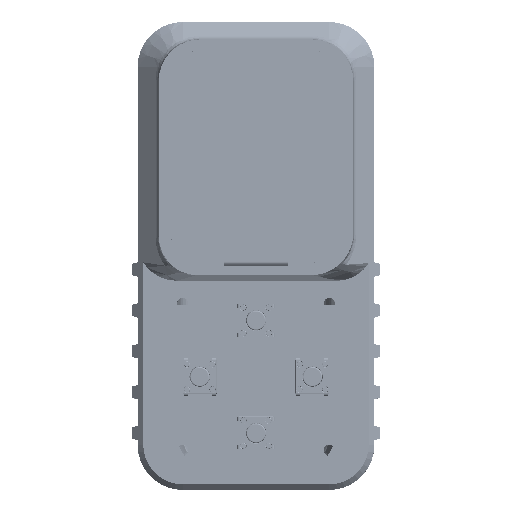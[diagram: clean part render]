
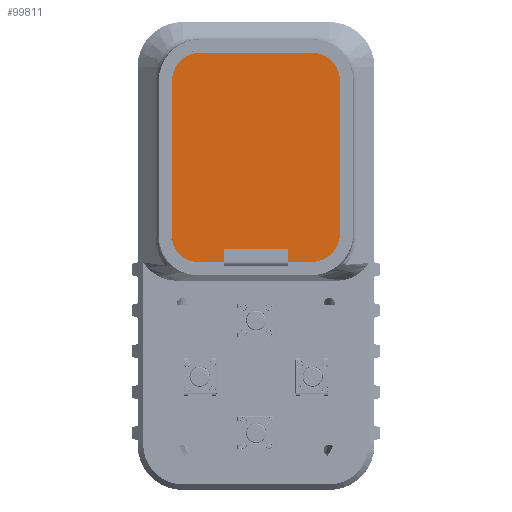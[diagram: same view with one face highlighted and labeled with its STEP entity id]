
A CAD part, top view. The second image highlights one B-rep face of the part: STEP entity #99811.
In plain terms, the highlighted planar face has unit normal (0, 0, 1).
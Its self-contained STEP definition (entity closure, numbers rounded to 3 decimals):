
#5588=PLANE('',#106194);
#9351=FACE_OUTER_BOUND('',#14831,.T.);
#14831=EDGE_LOOP('',(#69521,#69522,#69523,#69524,#69525,#69526,#69527,#69528,
#69529,#69530,#69531,#69532));
#20667=LINE('',#141843,#31817);
#20677=LINE('',#141870,#31827);
#20680=LINE('',#141878,#31830);
#20695=LINE('',#141935,#31845);
#20698=LINE('',#141940,#31848);
#20699=LINE('',#141944,#31849);
#20700=LINE('',#141948,#31850);
#20701=LINE('',#141952,#31851);
#31817=VECTOR('',#114379,10.);
#31827=VECTOR('',#114401,28.388);
#31830=VECTOR('',#114408,10.);
#31845=VECTOR('',#114455,27.61);
#31848=VECTOR('',#114460,10.);
#31849=VECTOR('',#114463,27.12);
#31850=VECTOR('',#114466,19.77);
#31851=VECTOR('',#114471,10.);
#42983=CIRCLE('',#106195,5.);
#42984=CIRCLE('',#106196,5.);
#42985=CIRCLE('',#106197,5.);
#42986=CIRCLE('',#106198,4.51);
#45151=VERTEX_POINT('',#141840);
#45152=VERTEX_POINT('',#141842);
#45163=VERTEX_POINT('',#141868);
#45166=VERTEX_POINT('',#141876);
#45191=VERTEX_POINT('',#141933);
#45192=VERTEX_POINT('',#141934);
#45193=VERTEX_POINT('',#141939);
#45194=VERTEX_POINT('',#141941);
#45195=VERTEX_POINT('',#141943);
#45196=VERTEX_POINT('',#141945);
#45197=VERTEX_POINT('',#141947);
#45198=VERTEX_POINT('',#141950);
#54772=EDGE_CURVE('',#45152,#45151,#20667,.T.);
#54786=EDGE_CURVE('',#45151,#45163,#20677,.T.);
#54790=EDGE_CURVE('',#45163,#45166,#20680,.T.);
#54817=EDGE_CURVE('',#45191,#45192,#20695,.T.);
#54820=EDGE_CURVE('',#45166,#45193,#20698,.T.);
#54821=EDGE_CURVE('',#45194,#45193,#42983,.T.);
#54822=EDGE_CURVE('',#45195,#45194,#20699,.T.);
#54823=EDGE_CURVE('',#45196,#45195,#42984,.T.);
#54824=EDGE_CURVE('',#45197,#45196,#20700,.T.);
#54825=EDGE_CURVE('',#45192,#45197,#42985,.T.);
#54826=EDGE_CURVE('',#45191,#45198,#42986,.T.);
#54827=EDGE_CURVE('',#45198,#45152,#20701,.T.);
#69521=ORIENTED_EDGE('',*,*,#54786,.T.);
#69522=ORIENTED_EDGE('',*,*,#54790,.T.);
#69523=ORIENTED_EDGE('',*,*,#54820,.T.);
#69524=ORIENTED_EDGE('',*,*,#54821,.F.);
#69525=ORIENTED_EDGE('',*,*,#54822,.F.);
#69526=ORIENTED_EDGE('',*,*,#54823,.F.);
#69527=ORIENTED_EDGE('',*,*,#54824,.F.);
#69528=ORIENTED_EDGE('',*,*,#54825,.F.);
#69529=ORIENTED_EDGE('',*,*,#54817,.F.);
#69530=ORIENTED_EDGE('',*,*,#54826,.T.);
#69531=ORIENTED_EDGE('',*,*,#54827,.T.);
#69532=ORIENTED_EDGE('',*,*,#54772,.T.);
#99811=ADVANCED_FACE('',(#9351),#5588,.T.);
#106194=AXIS2_PLACEMENT_3D('',#141938,#114458,#114459);
#106195=AXIS2_PLACEMENT_3D('',#141942,#114461,#114462);
#106196=AXIS2_PLACEMENT_3D('',#141946,#114464,#114465);
#106197=AXIS2_PLACEMENT_3D('',#141949,#114467,#114468);
#106198=AXIS2_PLACEMENT_3D('',#141951,#114469,#114470);
#114379=DIRECTION('',(0.,1.,0.));
#114401=DIRECTION('',(1.,0.,0.));
#114408=DIRECTION('',(0.,-1.,0.));
#114455=DIRECTION('',(0.,1.,0.));
#114458=DIRECTION('center_axis',(0.,0.,1.));
#114459=DIRECTION('ref_axis',(1.,0.,0.));
#114460=DIRECTION('',(1.,0.,0.));
#114461=DIRECTION('center_axis',(0.,0.,-1.));
#114462=DIRECTION('ref_axis',(1.,0.,0.));
#114463=DIRECTION('',(0.,-1.,0.));
#114464=DIRECTION('center_axis',(0.,0.,-1.));
#114465=DIRECTION('ref_axis',(0.,1.,0.));
#114466=DIRECTION('',(1.,0.,0.));
#114467=DIRECTION('center_axis',(0.,0.,-1.));
#114468=DIRECTION('ref_axis',(-1.,0.,0.));
#114469=DIRECTION('center_axis',(0.,0.,1.));
#114470=DIRECTION('ref_axis',(-0.87,-0.492,0.));
#114471=DIRECTION('',(1.,0.,0.));
#141840=CARTESIAN_POINT('',(-5.75,-17.495,1.56));
#141842=CARTESIAN_POINT('',(-5.75,-19.785,1.558));
#141843=CARTESIAN_POINT('',(-5.75,0.,1.56));
#141868=CARTESIAN_POINT('',(5.75,-17.495,1.56));
#141870=CARTESIAN_POINT('',(-14.301,-17.495,1.56));
#141876=CARTESIAN_POINT('',(5.75,-19.785,1.558));
#141878=CARTESIAN_POINT('',(5.75,0.,1.56));
#141933=CARTESIAN_POINT('',(-14.885,-15.275,1.56));
#141934=CARTESIAN_POINT('',(-14.885,12.335,1.56));
#141935=CARTESIAN_POINT('',(-14.885,-15.275,1.56));
#141938=CARTESIAN_POINT('Origin',(0.,0.,1.56));
#141939=CARTESIAN_POINT('',(9.885,-19.785,1.56));
#141940=CARTESIAN_POINT('',(4.943,-19.785,1.56));
#141941=CARTESIAN_POINT('',(14.885,-14.785,1.56));
#141942=CARTESIAN_POINT('Origin',(9.885,-14.785,1.56));
#141943=CARTESIAN_POINT('',(14.885,12.335,1.56));
#141944=CARTESIAN_POINT('',(14.885,12.335,1.56));
#141945=CARTESIAN_POINT('',(9.885,17.335,1.56));
#141946=CARTESIAN_POINT('Origin',(9.885,12.335,1.56));
#141947=CARTESIAN_POINT('',(-9.885,17.335,1.56));
#141948=CARTESIAN_POINT('',(-9.885,17.335,1.56));
#141949=CARTESIAN_POINT('Origin',(-9.885,12.335,1.56));
#141950=CARTESIAN_POINT('',(-10.375,-19.785,1.56));
#141951=CARTESIAN_POINT('Origin',(-10.375,-15.275,1.56));
#141952=CARTESIAN_POINT('',(4.943,-19.785,1.56));
